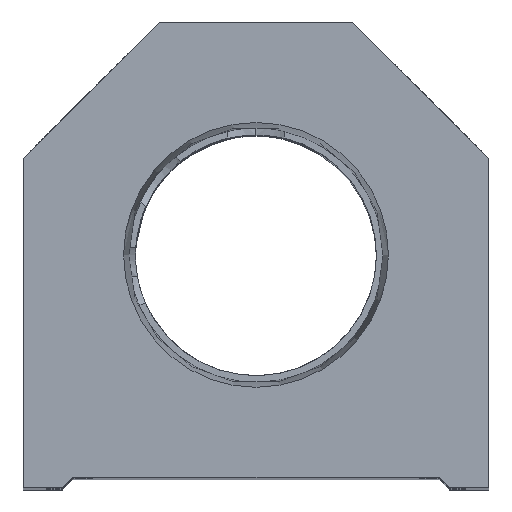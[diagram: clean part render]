
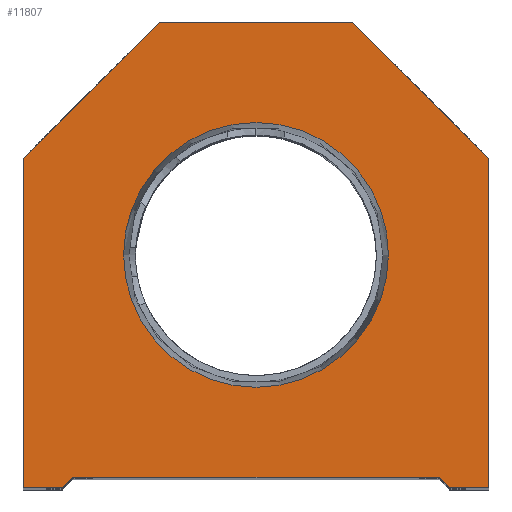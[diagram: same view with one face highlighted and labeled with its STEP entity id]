
A CAD part, top view. The second image highlights one B-rep face of the part: STEP entity #11807.
In plain terms, the highlighted planar face has unit normal (0, 0, 1).
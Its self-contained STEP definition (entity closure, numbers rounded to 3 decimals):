
#59 = CARTESIAN_POINT ( 'NONE',  ( -12.647, 22.25, 0. ) ) ;
#274 = AXIS2_PLACEMENT_3D ( 'NONE', #12777, #9192, #11714 ) ;
#659 = VECTOR ( 'NONE', #1332, 1000. ) ;
#710 = ORIENTED_EDGE ( 'NONE', *, *, #10469, .T. ) ;
#863 = ORIENTED_EDGE ( 'NONE', *, *, #5688, .T. ) ;
#1035 = ORIENTED_EDGE ( 'NONE', *, *, #5285, .F. ) ;
#1126 = ORIENTED_EDGE ( 'NONE', *, *, #9681, .T. ) ;
#1230 = ORIENTED_EDGE ( 'NONE', *, *, #11433, .T. ) ;
#1332 = DIRECTION ( 'NONE',  ( 1., 0., 0. ) ) ;
#1470 = CARTESIAN_POINT ( 'NONE',  ( -22.25, 0., 0. ) ) ;
#1789 = VECTOR ( 'NONE', #5214, 1000. ) ;
#1790 = VECTOR ( 'NONE', #8555, 1000. ) ;
#2312 = LINE ( 'NONE', #13677, #659 ) ;
#2455 = LINE ( 'NONE', #15068, #1789 ) ;
#2709 = CARTESIAN_POINT ( 'NONE',  ( -22.25, 31.5, 0. ) ) ;
#2828 = VECTOR ( 'NONE', #14714, 1000. ) ;
#3662 = FACE_BOUND ( 'NONE', #10542, .T. ) ;
#4023 = AXIS2_PLACEMENT_3D ( 'NONE', #12363, #8625, #13576 ) ;
#4114 = CARTESIAN_POINT ( 'NONE',  ( -17.5, 0., 0. ) ) ;
#4173 = CARTESIAN_POINT ( 'NONE',  ( 18.5, 0., 0. ) ) ;
#4249 = LINE ( 'NONE', #2709, #12188 ) ;
#4582 = EDGE_LOOP ( 'NONE', ( #710, #863, #15160, #8994, #11518, #7399, #5197, #12225, #1126, #1230 ) ) ;
#4648 = PLANE ( 'NONE',  #4023 ) ;
#4656 = CARTESIAN_POINT ( 'NONE',  ( 22.25, 31.5, 0. ) ) ;
#4925 = VECTOR ( 'NONE', #13858, 1000. ) ;
#5197 = ORIENTED_EDGE ( 'NONE', *, *, #13953, .T. ) ;
#5214 = DIRECTION ( 'NONE',  ( 0.707, -0.707, 0. ) ) ;
#5285 = EDGE_CURVE ( 'NONE', #13396, #9649, #9303, .T. ) ;
#5688 = EDGE_CURVE ( 'NONE', #13156, #10605, #9311, .T. ) ;
#5753 = CARTESIAN_POINT ( 'NONE',  ( 22.25, 31.5, 0. ) ) ;
#6055 = EDGE_CURVE ( 'NONE', #6943, #8406, #12512, .T. ) ;
#6446 = DIRECTION ( 'NONE',  ( -0.707, -0.707, 0. ) ) ;
#6864 = VECTOR ( 'NONE', #7431, 1000. ) ;
#6943 = VERTEX_POINT ( 'NONE', #7219 ) ;
#7007 = VERTEX_POINT ( 'NONE', #5753 ) ;
#7057 = LINE ( 'NONE', #12019, #12955 ) ;
#7130 = VECTOR ( 'NONE', #9652, 1000. ) ;
#7197 = CARTESIAN_POINT ( 'NONE',  ( -9.25, 44.5, 0. ) ) ;
#7219 = CARTESIAN_POINT ( 'NONE',  ( 9.25, 44.5, 0. ) ) ;
#7231 = DIRECTION ( 'NONE',  ( 1., 0., 0. ) ) ;
#7399 = ORIENTED_EDGE ( 'NONE', *, *, #8991, .T. ) ;
#7431 = DIRECTION ( 'NONE',  ( 1., 0., 0. ) ) ;
#7532 = CIRCLE ( 'NONE', #274, 12.647 ) ;
#7675 = CARTESIAN_POINT ( 'NONE',  ( 12.647, 22.25, 0. ) ) ;
#7731 = EDGE_CURVE ( 'NONE', #12438, #10166, #2455, .T. ) ;
#8406 = VERTEX_POINT ( 'NONE', #7197 ) ;
#8530 = CARTESIAN_POINT ( 'NONE',  ( 0., 22.25, 0. ) ) ;
#8555 = DIRECTION ( 'NONE',  ( 0.707, 0.707, 0. ) ) ;
#8625 = DIRECTION ( 'NONE',  ( 0., 0., 1. ) ) ;
#8691 = LINE ( 'NONE', #4656, #15413 ) ;
#8843 = DIRECTION ( 'NONE',  ( 0., 1., 0. ) ) ;
#8991 = EDGE_CURVE ( 'NONE', #15971, #7007, #7057, .T. ) ;
#8994 = ORIENTED_EDGE ( 'NONE', *, *, #7731, .T. ) ;
#9013 = CARTESIAN_POINT ( 'NONE',  ( -22.25, 31.5, 0. ) ) ;
#9192 = DIRECTION ( 'NONE',  ( 0., 0., 1. ) ) ;
#9303 = CIRCLE ( 'NONE', #12930, 12.647 ) ;
#9311 = LINE ( 'NONE', #11991, #1790 ) ;
#9649 = VERTEX_POINT ( 'NONE', #7675 ) ;
#9652 = DIRECTION ( 'NONE',  ( 0., -1., 0. ) ) ;
#9681 = EDGE_CURVE ( 'NONE', #8406, #12218, #4249, .T. ) ;
#9686 = FACE_OUTER_BOUND ( 'NONE', #4582, .T. ) ;
#9752 = CARTESIAN_POINT ( 'NONE',  ( 9.25, 44.5, 0. ) ) ;
#10029 = EDGE_CURVE ( 'NONE', #9649, #13396, #7532, .T. ) ;
#10166 = VERTEX_POINT ( 'NONE', #4173 ) ;
#10469 = EDGE_CURVE ( 'NONE', #12142, #13156, #14105, .T. ) ;
#10542 = EDGE_LOOP ( 'NONE', ( #12937, #1035 ) ) ;
#10605 = VERTEX_POINT ( 'NONE', #13112 ) ;
#11371 = CARTESIAN_POINT ( 'NONE',  ( -18.5, 0., 0. ) ) ;
#11433 = EDGE_CURVE ( 'NONE', #12218, #12142, #12086, .T. ) ;
#11518 = ORIENTED_EDGE ( 'NONE', *, *, #13666, .T. ) ;
#11714 = DIRECTION ( 'NONE',  ( 1., 0., 0. ) ) ;
#11807 = ADVANCED_FACE ( 'NONE', ( #3662, #9686 ), #4648, .T. ) ;
#11991 = CARTESIAN_POINT ( 'NONE',  ( -9.25, 9.25, 0. ) ) ;
#12019 = CARTESIAN_POINT ( 'NONE',  ( 22.25, 0., 0. ) ) ;
#12086 = LINE ( 'NONE', #14443, #7130 ) ;
#12142 = VERTEX_POINT ( 'NONE', #1470 ) ;
#12188 = VECTOR ( 'NONE', #6446, 1000. ) ;
#12218 = VERTEX_POINT ( 'NONE', #9013 ) ;
#12225 = ORIENTED_EDGE ( 'NONE', *, *, #6055, .T. ) ;
#12305 = CARTESIAN_POINT ( 'NONE',  ( 17.5, 0., 0. ) ) ;
#12363 = CARTESIAN_POINT ( 'NONE',  ( 0., 0., 0. ) ) ;
#12438 = VERTEX_POINT ( 'NONE', #13467 ) ;
#12510 = DIRECTION ( 'NONE',  ( 0., 0., 1. ) ) ;
#12512 = LINE ( 'NONE', #9752, #2828 ) ;
#12777 = CARTESIAN_POINT ( 'NONE',  ( 0., 22.25, 0. ) ) ;
#12930 = AXIS2_PLACEMENT_3D ( 'NONE', #8530, #12510, #7231 ) ;
#12937 = ORIENTED_EDGE ( 'NONE', *, *, #10029, .F. ) ;
#12955 = VECTOR ( 'NONE', #8843, 1000. ) ;
#13112 = CARTESIAN_POINT ( 'NONE',  ( -17.5, 1., 0. ) ) ;
#13156 = VERTEX_POINT ( 'NONE', #11371 ) ;
#13396 = VERTEX_POINT ( 'NONE', #59 ) ;
#13467 = CARTESIAN_POINT ( 'NONE',  ( 17.5, 1., 0. ) ) ;
#13576 = DIRECTION ( 'NONE',  ( 1., 0., 0. ) ) ;
#13666 = EDGE_CURVE ( 'NONE', #10166, #15971, #14594, .T. ) ;
#13677 = CARTESIAN_POINT ( 'NONE',  ( -17.5, 1., 0. ) ) ;
#13858 = DIRECTION ( 'NONE',  ( 1., 0., 0. ) ) ;
#13953 = EDGE_CURVE ( 'NONE', #7007, #6943, #8691, .T. ) ;
#14038 = CARTESIAN_POINT ( 'NONE',  ( 22.25, 0., 0. ) ) ;
#14105 = LINE ( 'NONE', #4114, #4925 ) ;
#14443 = CARTESIAN_POINT ( 'NONE',  ( -22.25, 0., 0. ) ) ;
#14575 = DIRECTION ( 'NONE',  ( -0.707, 0.707, 0. ) ) ;
#14594 = LINE ( 'NONE', #12305, #6864 ) ;
#14714 = DIRECTION ( 'NONE',  ( -1., 0., 0. ) ) ;
#14818 = EDGE_CURVE ( 'NONE', #10605, #12438, #2312, .T. ) ;
#15068 = CARTESIAN_POINT ( 'NONE',  ( 9.25, 9.25, 0. ) ) ;
#15160 = ORIENTED_EDGE ( 'NONE', *, *, #14818, .T. ) ;
#15413 = VECTOR ( 'NONE', #14575, 1000. ) ;
#15971 = VERTEX_POINT ( 'NONE', #14038 ) ;
